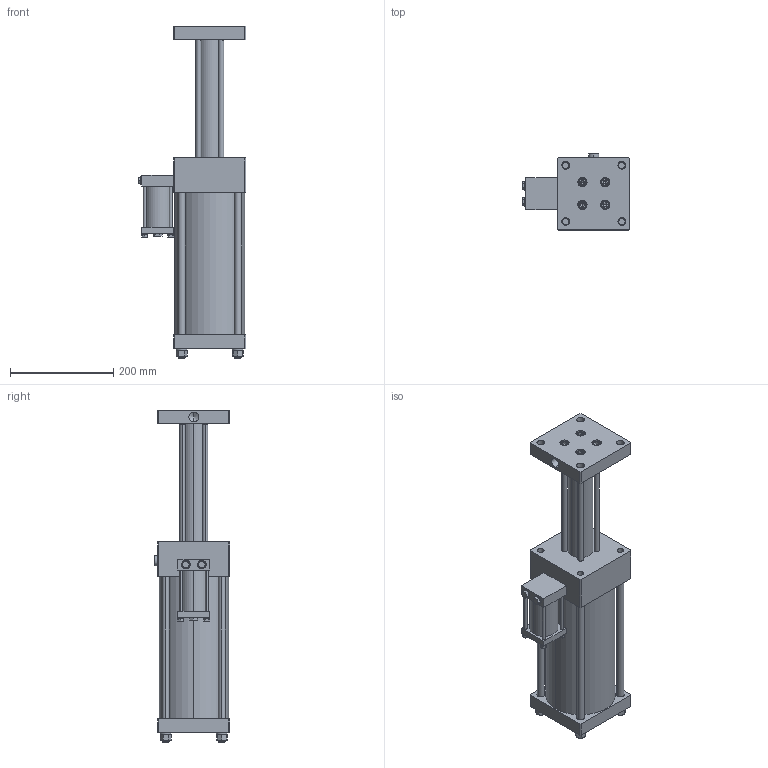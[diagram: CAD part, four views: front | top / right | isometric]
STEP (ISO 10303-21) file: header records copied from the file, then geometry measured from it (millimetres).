
FILE_DESCRIPTION (( 'STEP AP203' ), '1' );
FILE_NAME ('1320 100 100.STEP', '2016-02-22T09:20:01', ( 'Admin' ), ( '' ), 'SwSTEP 2.0', 'SolidWorks 2015', '' );
FILE_SCHEMA (( 'CONFIG_CONTROL_DESIGN' ));
Length unit declared in the file: millimetre
Products named in the file (10): hexagon nut_is_IS 1363-2 - M12-N; 1320_1320 100 100; 1320 100 100; spring lock washer 6735_is_IS 6735- 6; hexagon nut_is1_IS 1363-2 - M6-N; hhb(grade a)_is_IS 1364 HHB(Grade A) - M8 x 40 x 22-N_1; plain washer (type a)_is_IS 2016 A- 9_1; spring lock washer 6735_is1_IS 6735- 10_1; socket head cap screw_is_IS 2269 - M10 x 16-N_1; spring lock washer 6735_is1_IS 6735- 14
Assembly tree (30 placements, depth 2):
  1320 100 100
    1320_1320 100 100
    spring lock washer 6735_is_IS 6735- 6  x4
    hexagon nut_is1_IS 1363-2 - M6-N  x4
    hhb(grade a)_is_IS 1364 HHB(Grade A) - M8 x 40 x 22-N_1  x2
    plain washer (type a)_is_IS 2016 A- 9_1  x2
    spring lock washer 6735_is1_IS 6735- 10_1  x4
    socket head cap screw_is_IS 2269 - M10 x 16-N_1  x4
    spring lock washer 6735_is1_IS 6735- 14  x5
    hexagon nut_is_IS 1363-2 - M12-N  x4
Bounding box: 208.9 x 147 x 644 mm (x, y, z)
Volume: 7375163.1 mm3; surface area: 500634.5 mm2
Topology: 35 solids, 35 shells, 746 faces, 1720 edges, 1070 vertices
Faces by surface type: plane 289, cylinder 220, cone 182, bspline 47, torus 8
Entity records: 12366 total; most frequent: CARTESIAN_POINT 2403, DIRECTION 1829, ORIENTED_EDGE 1642, EDGE_CURVE 821, AXIS2_PLACEMENT_3D 727, VERTEX_POINT 527, EDGE_LOOP 442, LINE 375
